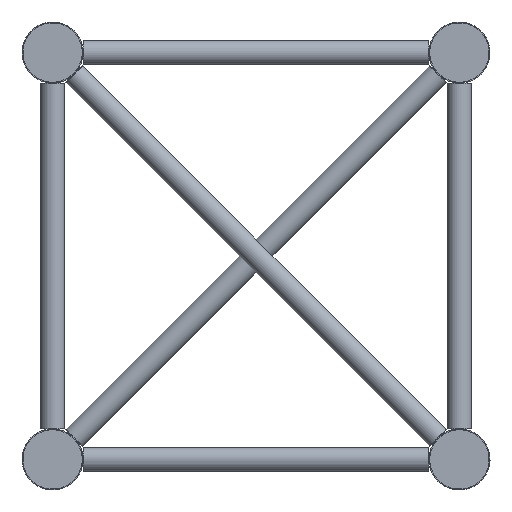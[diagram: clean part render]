
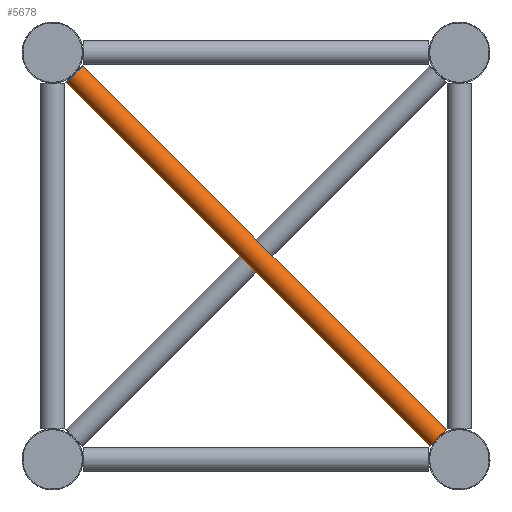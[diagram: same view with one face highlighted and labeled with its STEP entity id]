
A CAD part, left-side view. The second image highlights one B-rep face of the part: STEP entity #5678.
In plain terms, the highlighted cylindrical face has radius 10 mm (diameter 20 mm), a full revolution.
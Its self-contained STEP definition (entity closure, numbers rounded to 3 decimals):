
#924=FACE_BOUND('',#1608,.T.);
#1160=CYLINDRICAL_SURFACE('',#6045,10.);
#1249=FACE_OUTER_BOUND('',#1607,.T.);
#1607=EDGE_LOOP('',(#3535));
#1608=EDGE_LOOP('',(#3536));
#2194=CIRCLE('',#6044,10.);
#2195=CIRCLE('',#6046,10.);
#2266=VERTEX_POINT('',#8183);
#2267=VERTEX_POINT('',#8186);
#2786=EDGE_CURVE('',#2266,#2266,#2194,.T.);
#2787=EDGE_CURVE('',#2267,#2267,#2195,.T.);
#3535=ORIENTED_EDGE('',*,*,#2786,.T.);
#3536=ORIENTED_EDGE('',*,*,#2787,.T.);
#5678=ADVANCED_FACE('',(#1249,#924),#1160,.T.);
#6044=AXIS2_PLACEMENT_3D('',#8184,#6693,#6694);
#6045=AXIS2_PLACEMENT_3D('',#8185,#6695,#6696);
#6046=AXIS2_PLACEMENT_3D('',#8187,#6697,#6698);
#6693=DIRECTION('center_axis',(0.,0.707,0.707));
#6694=DIRECTION('ref_axis',(0.,0.707,-0.707));
#6695=DIRECTION('center_axis',(0.,0.707,0.707));
#6696=DIRECTION('ref_axis',(0.,0.707,-0.707));
#6697=DIRECTION('center_axis',(0.,-0.707,-0.707));
#6698=DIRECTION('ref_axis',(0.,0.707,-0.707));
#8183=CARTESIAN_POINT('',(60.,10.967,-313.891));
#8184=CARTESIAN_POINT('Origin',(60.,18.038,-320.962));
#8185=CARTESIAN_POINT('Origin',(60.,169.5,-169.5));
#8186=CARTESIAN_POINT('',(60.,313.891,-10.967));
#8187=CARTESIAN_POINT('Origin',(60.,320.962,-18.038));
